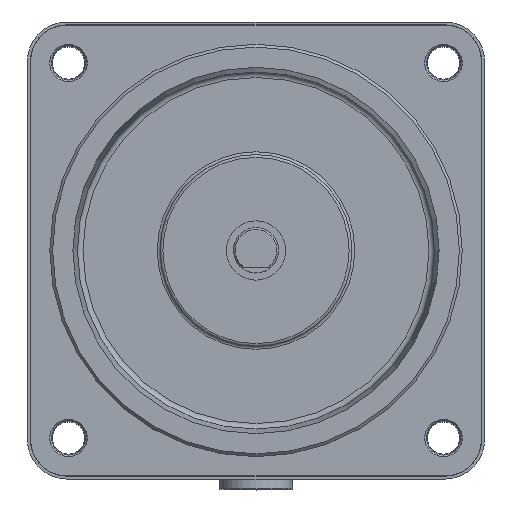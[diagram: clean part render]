
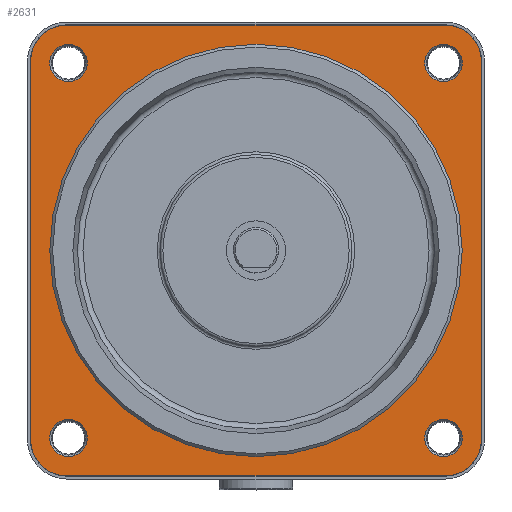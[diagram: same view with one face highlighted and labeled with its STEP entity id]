
A CAD part, top view. The second image highlights one B-rep face of the part: STEP entity #2631.
In plain terms, the highlighted planar face has unit normal (0, 0, 1).
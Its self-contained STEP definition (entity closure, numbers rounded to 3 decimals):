
#2 = ORIENTED_EDGE ( 'NONE', *, *, #4289, .F. ) ;
#28 = FACE_BOUND ( 'NONE', #3163, .T. ) ;
#100 = VERTEX_POINT ( 'NONE', #559 ) ;
#130 = VERTEX_POINT ( 'NONE', #2236 ) ;
#204 = AXIS2_PLACEMENT_3D ( 'NONE', #1209, #3052, #4464 ) ;
#226 = AXIS2_PLACEMENT_3D ( 'NONE', #1140, #790, #4345 ) ;
#283 = ORIENTED_EDGE ( 'NONE', *, *, #1210, .F. ) ;
#314 = EDGE_LOOP ( 'NONE', ( #2629 ) ) ;
#318 = CARTESIAN_POINT ( 'NONE',  ( 39.95, 33.5, 0.5 ) ) ;
#337 = DIRECTION ( 'NONE',  ( 0., -1., 0. ) ) ;
#360 = DIRECTION ( 'NONE',  ( 1., 0., 0. ) ) ;
#363 = ORIENTED_EDGE ( 'NONE', *, *, #3643, .F. ) ;
#365 = AXIS2_PLACEMENT_3D ( 'NONE', #2385, #1699, #1992 ) ;
#378 = DIRECTION ( 'NONE',  ( 0., 0., 1. ) ) ;
#390 = CARTESIAN_POINT ( 'NONE',  ( 33.5, 39.95, 0.5 ) ) ;
#532 = DIRECTION ( 'NONE',  ( 0., 0., 1. ) ) ;
#559 = CARTESIAN_POINT ( 'NONE',  ( 33.5, -39.95, 0.5 ) ) ;
#614 = EDGE_CURVE ( 'NONE', #3251, #3251, #3523, .T. ) ;
#635 = ORIENTED_EDGE ( 'NONE', *, *, #4242, .F. ) ;
#654 = VECTOR ( 'NONE', #4388, 1000. ) ;
#674 = DIRECTION ( 'NONE',  ( -1., 0., 0. ) ) ;
#677 = FACE_BOUND ( 'NONE', #314, .T. ) ;
#728 = FACE_BOUND ( 'NONE', #2103, .T. ) ;
#756 = EDGE_CURVE ( 'NONE', #1889, #1889, #2184, .T. ) ;
#790 = DIRECTION ( 'NONE',  ( 0., 0., 1. ) ) ;
#855 = LINE ( 'NONE', #2883, #654 ) ;
#1051 = CARTESIAN_POINT ( 'NONE',  ( -33.5, 39.95, 0.5 ) ) ;
#1100 = CARTESIAN_POINT ( 'NONE',  ( -33.5, -39.95, 0.5 ) ) ;
#1130 = VERTEX_POINT ( 'NONE', #3501 ) ;
#1140 = CARTESIAN_POINT ( 'NONE',  ( -33.234, 33.234, 0.5 ) ) ;
#1209 = CARTESIAN_POINT ( 'NONE',  ( -33.234, -33.234, 0.5 ) ) ;
#1210 = EDGE_CURVE ( 'NONE', #1240, #1130, #1381, .T. ) ;
#1240 = VERTEX_POINT ( 'NONE', #1100 ) ;
#1277 = ORIENTED_EDGE ( 'NONE', *, *, #2264, .F. ) ;
#1304 = LINE ( 'NONE', #2743, #3014 ) ;
#1381 = CIRCLE ( 'NONE', #1960, 6.45 ) ;
#1438 = VERTEX_POINT ( 'NONE', #390 ) ;
#1479 = VERTEX_POINT ( 'NONE', #4343 ) ;
#1495 = CIRCLE ( 'NONE', #1854, 3.323 ) ;
#1521 = CARTESIAN_POINT ( 'NONE',  ( 33.234, 33.234, 0.5 ) ) ;
#1602 = AXIS2_PLACEMENT_3D ( 'NONE', #4173, #2812, #360 ) ;
#1620 = EDGE_CURVE ( 'NONE', #1438, #4040, #3012, .T. ) ;
#1699 = DIRECTION ( 'NONE',  ( 0., 0., -1. ) ) ;
#1731 = CARTESIAN_POINT ( 'NONE',  ( 33.5, -39.95, 0.5 ) ) ;
#1778 = ORIENTED_EDGE ( 'NONE', *, *, #614, .F. ) ;
#1822 = CARTESIAN_POINT ( 'NONE',  ( 33.5, -33.5, 0.5 ) ) ;
#1830 = CARTESIAN_POINT ( 'NONE',  ( 0., 0., 0.5 ) ) ;
#1854 = AXIS2_PLACEMENT_3D ( 'NONE', #1521, #532, #1907 ) ;
#1889 = VERTEX_POINT ( 'NONE', #4309 ) ;
#1907 = DIRECTION ( 'NONE',  ( 1., 0., 0. ) ) ;
#1960 = AXIS2_PLACEMENT_3D ( 'NONE', #4167, #2445, #3863 ) ;
#1977 = CIRCLE ( 'NONE', #204, 3.323 ) ;
#1992 = DIRECTION ( 'NONE',  ( 1., 0., 0. ) ) ;
#1997 = ORIENTED_EDGE ( 'NONE', *, *, #2825, .F. ) ;
#2069 = CARTESIAN_POINT ( 'NONE',  ( 33.234, -33.234, 0.5 ) ) ;
#2098 = EDGE_CURVE ( 'NONE', #3311, #1438, #855, .T. ) ;
#2101 = FACE_BOUND ( 'NONE', #2398, .T. ) ;
#2103 = EDGE_LOOP ( 'NONE', ( #2 ) ) ;
#2184 = CIRCLE ( 'NONE', #2257, 36.55 ) ;
#2190 = DIRECTION ( 'NONE',  ( 0., 0., -1. ) ) ;
#2206 = VECTOR ( 'NONE', #674, 1000. ) ;
#2218 = CIRCLE ( 'NONE', #226, 3.323 ) ;
#2236 = CARTESIAN_POINT ( 'NONE',  ( -29.911, 33.234, 0.5 ) ) ;
#2257 = AXIS2_PLACEMENT_3D ( 'NONE', #3921, #4221, #4598 ) ;
#2264 = EDGE_CURVE ( 'NONE', #1130, #4412, #1304, .T. ) ;
#2277 = AXIS2_PLACEMENT_3D ( 'NONE', #1822, #2190, #2869 ) ;
#2327 = CARTESIAN_POINT ( 'NONE',  ( 39.95, -33.5, 0.5 ) ) ;
#2385 = CARTESIAN_POINT ( 'NONE',  ( -33.5, 33.5, 0.5 ) ) ;
#2398 = EDGE_LOOP ( 'NONE', ( #1778 ) ) ;
#2443 = LINE ( 'NONE', #1731, #2206 ) ;
#2445 = DIRECTION ( 'NONE',  ( 0., 0., -1. ) ) ;
#2600 = CARTESIAN_POINT ( 'NONE',  ( 36.557, 33.234, 0.5 ) ) ;
#2629 = ORIENTED_EDGE ( 'NONE', *, *, #756, .F. ) ;
#2631 = ADVANCED_FACE ( 'NONE', ( #677, #2101, #728, #3597, #3888, #28 ), #2828, .T. ) ;
#2680 = ORIENTED_EDGE ( 'NONE', *, *, #2942, .F. ) ;
#2684 = ORIENTED_EDGE ( 'NONE', *, *, #3140, .F. ) ;
#2715 = DIRECTION ( 'NONE',  ( 0., 1., 0. ) ) ;
#2743 = CARTESIAN_POINT ( 'NONE',  ( -39.95, -33.5, 0.5 ) ) ;
#2769 = CARTESIAN_POINT ( 'NONE',  ( -39.95, 33.5, 0.5 ) ) ;
#2812 = DIRECTION ( 'NONE',  ( 0., 0., -1. ) ) ;
#2825 = EDGE_CURVE ( 'NONE', #4201, #4201, #1977, .T. ) ;
#2828 = PLANE ( 'NONE',  #4423 ) ;
#2838 = ORIENTED_EDGE ( 'NONE', *, *, #1620, .F. ) ;
#2848 = DIRECTION ( 'NONE',  ( 1., 0., 0. ) ) ;
#2869 = DIRECTION ( 'NONE',  ( 1., 0., 0. ) ) ;
#2883 = CARTESIAN_POINT ( 'NONE',  ( 33.5, 39.95, 0.5 ) ) ;
#2920 = VERTEX_POINT ( 'NONE', #2600 ) ;
#2942 = EDGE_CURVE ( 'NONE', #4412, #3311, #3253, .T. ) ;
#3012 = CIRCLE ( 'NONE', #1602, 6.45 ) ;
#3014 = VECTOR ( 'NONE', #2715, 1000. ) ;
#3052 = DIRECTION ( 'NONE',  ( 0., 0., 1. ) ) ;
#3107 = ORIENTED_EDGE ( 'NONE', *, *, #3321, .F. ) ;
#3140 = EDGE_CURVE ( 'NONE', #4040, #1479, #4095, .T. ) ;
#3163 = EDGE_LOOP ( 'NONE', ( #635 ) ) ;
#3177 = ORIENTED_EDGE ( 'NONE', *, *, #2098, .F. ) ;
#3231 = AXIS2_PLACEMENT_3D ( 'NONE', #2069, #3794, #3809 ) ;
#3251 = VERTEX_POINT ( 'NONE', #3954 ) ;
#3253 = CIRCLE ( 'NONE', #365, 6.45 ) ;
#3311 = VERTEX_POINT ( 'NONE', #1051 ) ;
#3321 = EDGE_CURVE ( 'NONE', #100, #1240, #2443, .T. ) ;
#3329 = VECTOR ( 'NONE', #337, 1000. ) ;
#3501 = CARTESIAN_POINT ( 'NONE',  ( -39.95, -33.5, 0.5 ) ) ;
#3523 = CIRCLE ( 'NONE', #3231, 3.323 ) ;
#3587 = CARTESIAN_POINT ( 'NONE',  ( -29.911, -33.234, 0.5 ) ) ;
#3597 = FACE_BOUND ( 'NONE', #4604, .T. ) ;
#3643 = EDGE_CURVE ( 'NONE', #1479, #100, #4286, .T. ) ;
#3794 = DIRECTION ( 'NONE',  ( 0., 0., 1. ) ) ;
#3809 = DIRECTION ( 'NONE',  ( 1., 0., 0. ) ) ;
#3863 = DIRECTION ( 'NONE',  ( 1., 0., 0. ) ) ;
#3888 = FACE_OUTER_BOUND ( 'NONE', #3984, .T. ) ;
#3921 = CARTESIAN_POINT ( 'NONE',  ( 0., 0., 0.5 ) ) ;
#3954 = CARTESIAN_POINT ( 'NONE',  ( 36.557, -33.234, 0.5 ) ) ;
#3984 = EDGE_LOOP ( 'NONE', ( #2684, #2838, #3177, #2680, #1277, #283, #3107, #363 ) ) ;
#4040 = VERTEX_POINT ( 'NONE', #318 ) ;
#4095 = LINE ( 'NONE', #2327, #3329 ) ;
#4167 = CARTESIAN_POINT ( 'NONE',  ( -33.5, -33.5, 0.5 ) ) ;
#4173 = CARTESIAN_POINT ( 'NONE',  ( 33.5, 33.5, 0.5 ) ) ;
#4201 = VERTEX_POINT ( 'NONE', #3587 ) ;
#4221 = DIRECTION ( 'NONE',  ( 0., 0., 1. ) ) ;
#4242 = EDGE_CURVE ( 'NONE', #130, #130, #2218, .T. ) ;
#4286 = CIRCLE ( 'NONE', #2277, 6.45 ) ;
#4289 = EDGE_CURVE ( 'NONE', #2920, #2920, #1495, .T. ) ;
#4309 = CARTESIAN_POINT ( 'NONE',  ( 36.55, 0., 0.5 ) ) ;
#4343 = CARTESIAN_POINT ( 'NONE',  ( 39.95, -33.5, 0.5 ) ) ;
#4345 = DIRECTION ( 'NONE',  ( 1., 0., 0. ) ) ;
#4388 = DIRECTION ( 'NONE',  ( 1., 0., 0. ) ) ;
#4412 = VERTEX_POINT ( 'NONE', #2769 ) ;
#4423 = AXIS2_PLACEMENT_3D ( 'NONE', #1830, #378, #2848 ) ;
#4464 = DIRECTION ( 'NONE',  ( 1., 0., 0. ) ) ;
#4598 = DIRECTION ( 'NONE',  ( 1., 0., 0. ) ) ;
#4604 = EDGE_LOOP ( 'NONE', ( #1997 ) ) ;
